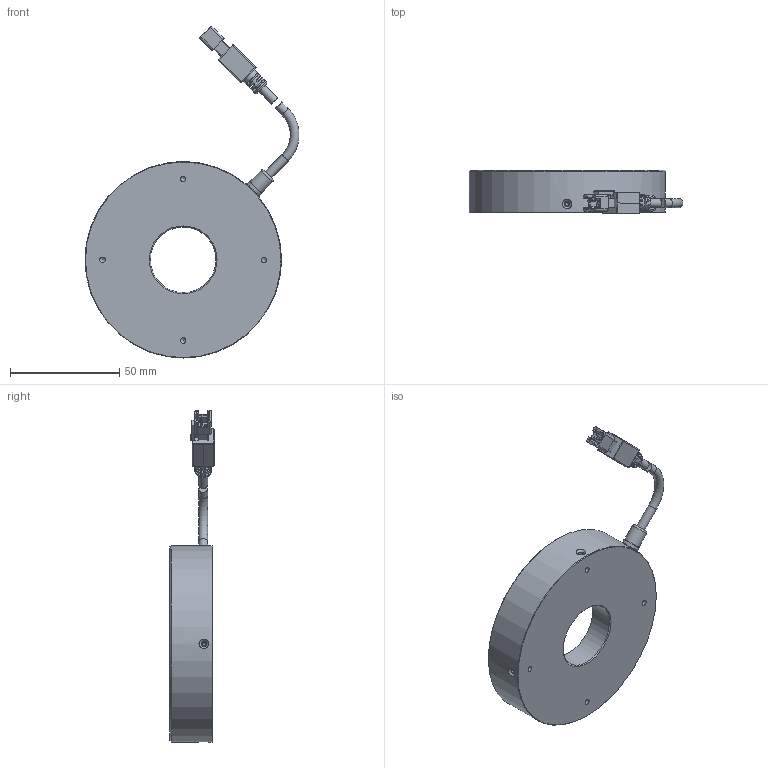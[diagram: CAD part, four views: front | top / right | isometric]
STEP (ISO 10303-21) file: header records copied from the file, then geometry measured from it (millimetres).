
FILE_DESCRIPTION (( 'STEP AP203' ), '1' );
FILE_NAME ('OPT-RI9000-X-V5.0尨砩芞.STEP', '2024-12-12T08:59:16', ( '' ), ( '' ), 'SwSTEP 2.0', 'SolidWorks 2016', '' );
FILE_SCHEMA (( 'CONFIG_CONTROL_DESIGN' ));
Length unit declared in the file: millimetre
Products named in the file (1): OPT-RI9000-X-V5.0尨砩芞
Bounding box: 98.04 x 20.2 x 152.11 mm (x, y, z)
Volume: 76833.9 mm3; surface area: 27011.9 mm2
Topology: 7 solids, 7 shells, 346 faces, 896 edges, 565 vertices
Faces by surface type: plane 171, cylinder 116, cone 28, bspline 22, torus 9
Full cylindrical faces by diameter (mm): 1.1 x4, 1.6 x4, 2.4 x4, 2.5 x4, 3.5 x1, 4.1 x4, 5.8 x1, 7.5 x2, 8 x1, 30 x1, 81.8 x1, 90 x1
Entity records: 11210 total; most frequent: CARTESIAN_POINT 3247, ORIENTED_EDGE 1600, DIRECTION 1584, EDGE_CURVE 800, AXIS2_PLACEMENT_3D 545, VERTEX_POINT 536, LINE 494, VECTOR 494
